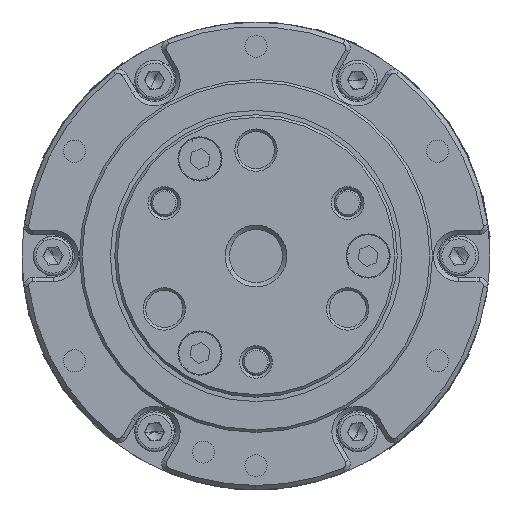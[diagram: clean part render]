
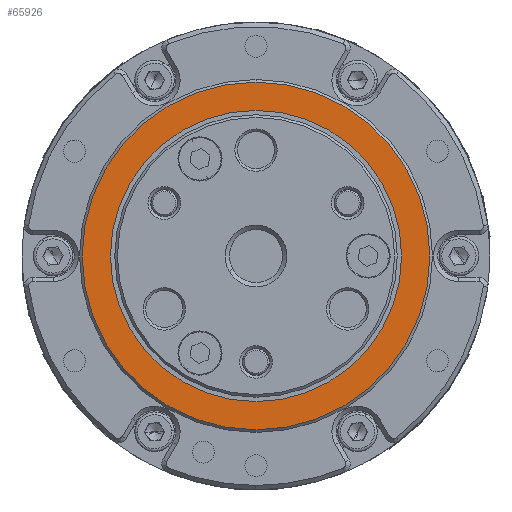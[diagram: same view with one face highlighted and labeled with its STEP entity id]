
A CAD part, front view. The second image highlights one B-rep face of the part: STEP entity #65926.
In plain terms, the highlighted planar face has unit normal (0, -1, 0).
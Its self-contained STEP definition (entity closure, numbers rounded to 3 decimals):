
#62 = ORIENTED_EDGE ( 'NONE', *, *, #33172, .T. ) ;
#319 = VERTEX_POINT ( 'NONE', #35648 ) ;
#2747 = AXIS2_PLACEMENT_3D ( 'NONE', #34478, #70339, #77415 ) ;
#4643 = DIRECTION ( 'NONE',  ( 0., 0., 1. ) ) ;
#9165 = VERTEX_POINT ( 'NONE', #71089 ) ;
#14546 = AXIS2_PLACEMENT_3D ( 'NONE', #34028, #42520, #66586 ) ;
#18926 = CIRCLE ( 'NONE', #57980, 16.5 ) ;
#20746 = CARTESIAN_POINT ( 'NONE',  ( 0., -44.2, 0. ) ) ;
#21438 = EDGE_LOOP ( 'NONE', ( #26551, #47936 ) ) ;
#23588 = CARTESIAN_POINT ( 'NONE',  ( 0., -44.2, -16.5 ) ) ;
#25462 = AXIS2_PLACEMENT_3D ( 'NONE', #71216, #59007, #72368 ) ;
#26551 = ORIENTED_EDGE ( 'NONE', *, *, #72379, .F. ) ;
#31192 = EDGE_CURVE ( 'NONE', #37438, #319, #18926, .T. ) ;
#33172 = EDGE_CURVE ( 'NONE', #9165, #73738, #53136, .T. ) ;
#33780 = DIRECTION ( 'NONE',  ( 0., -1., 0. ) ) ;
#34028 = CARTESIAN_POINT ( 'NONE',  ( 0., -44.2, 0. ) ) ;
#34478 = CARTESIAN_POINT ( 'NONE',  ( 0., -44.2, 0. ) ) ;
#35062 = CARTESIAN_POINT ( 'NONE',  ( 0., -44.2, 0. ) ) ;
#35648 = CARTESIAN_POINT ( 'NONE',  ( 0., -44.2, 16.5 ) ) ;
#37438 = VERTEX_POINT ( 'NONE', #23588 ) ;
#41704 = ORIENTED_EDGE ( 'NONE', *, *, #72185, .T. ) ;
#42133 = AXIS2_PLACEMENT_3D ( 'NONE', #35062, #70525, #4643 ) ;
#42520 = DIRECTION ( 'NONE',  ( 0., -1., 0. ) ) ;
#46024 = CIRCLE ( 'NONE', #14546, 19.7 ) ;
#47156 = PLANE ( 'NONE',  #25462 ) ;
#47548 = FACE_BOUND ( 'NONE', #21438, .T. ) ;
#47936 = ORIENTED_EDGE ( 'NONE', *, *, #31192, .F. ) ;
#53067 = FACE_OUTER_BOUND ( 'NONE', #78027, .T. ) ;
#53136 = CIRCLE ( 'NONE', #2747, 19.7 ) ;
#57793 = DIRECTION ( 'NONE',  ( 0., 0., 1. ) ) ;
#57980 = AXIS2_PLACEMENT_3D ( 'NONE', #20746, #33780, #57793 ) ;
#59007 = DIRECTION ( 'NONE',  ( 0., 1., 0. ) ) ;
#65926 = ADVANCED_FACE ( 'NONE', ( #53067, #47548 ), #47156, .F. ) ;
#66586 = DIRECTION ( 'NONE',  ( 0., 0., -1. ) ) ;
#69925 = CARTESIAN_POINT ( 'NONE',  ( 0., -44.2, 19.7 ) ) ;
#70339 = DIRECTION ( 'NONE',  ( 0., -1., 0. ) ) ;
#70525 = DIRECTION ( 'NONE',  ( 0., -1., 0. ) ) ;
#71089 = CARTESIAN_POINT ( 'NONE',  ( 0., -44.2, -19.7 ) ) ;
#71216 = CARTESIAN_POINT ( 'NONE',  ( -16.5, -44.2, 0. ) ) ;
#72185 = EDGE_CURVE ( 'NONE', #73738, #9165, #46024, .T. ) ;
#72368 = DIRECTION ( 'NONE',  ( 0., 0., -1. ) ) ;
#72379 = EDGE_CURVE ( 'NONE', #319, #37438, #76349, .T. ) ;
#73738 = VERTEX_POINT ( 'NONE', #69925 ) ;
#76349 = CIRCLE ( 'NONE', #42133, 16.5 ) ;
#77415 = DIRECTION ( 'NONE',  ( 0., 0., -1. ) ) ;
#78027 = EDGE_LOOP ( 'NONE', ( #62, #41704 ) ) ;
